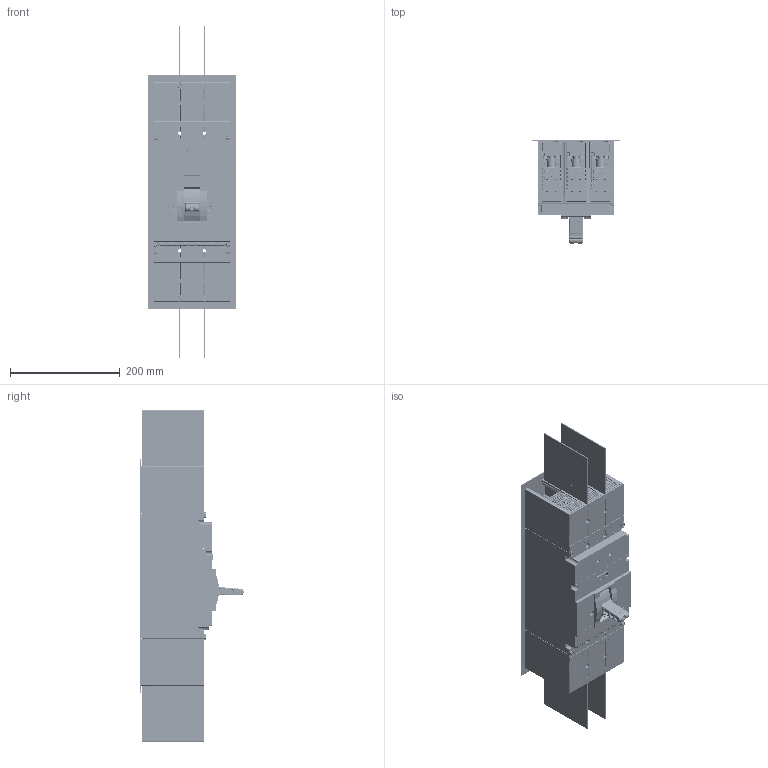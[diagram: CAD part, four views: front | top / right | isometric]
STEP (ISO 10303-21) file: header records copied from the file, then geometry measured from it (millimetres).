
FILE_DESCRIPTION((''),'2;1');
FILE_NAME('NM8N-630HVS_TM_500_3P_ASM','2023-07-04T10:33:25',('wanhf'),(''),'CREO PARAMETRIC BY PTC INC, 2020044','CREO PARAMETRIC BY PTC INC, 2020044','');
FILE_SCHEMA(('CONFIG_CONTROL_DESIGN','SHAPE_APPEARANCE_LAYERS_GROUPS'));
Products named in the file (56): 8ZTD_024_1075_243_1_1; 8300M0101003_123_1_1; 8940M0312001HW_92_1_1; 5ZTD_024_1057_ASM_80_ASM_1_ASM__ASM; 8ZTD_300_731_361_1_1; 5ZTD_550_889_ASM_334_ASM_1_1; 5ZTD_550_890_1-2_ASM_366_ASM_1_; 5ZTD_616_009_ASM_338_ASM_1_1; 5ZTD_553_275_1-2_ASM_383_ASM_1_; 5ZTD_200_190_1-2_ASM_89_ASM_1_A_ASM; 5ZTD_740_371_ASM_333_ASM_1_1; 8ZTD_300_730_405_1_1; 5ZTD_005_558_1-2_ASM_233_ASM_1__ASM; 5ZTD_040_199_ASM_293_ASM_1_1; 5ZTD_040_201_ASM_276_ASM_1_ASM__ASM; 5ZTD_257_079_ASM_229_ASM_1_1; 5ZTD_257_080_ASM_255_ASM_1_ASM__ASM; 5ZTD_040_200_ASM_232_ASM_1_ASM__ASM; 8288M0820012_221_ASM_1_1; 5ZTD_295_673_ASM_233_ASM_1_ASM__ASM; 5232M1526109HW_ASM_100_ASM_1_1; 8ZTD_300_729_422_1_1; 5ZTD_005_557_1-2_ASM_225_ASM_1__ASM; 8ZTD_300_732_289_1_1; 5ZTD_005_559_1-2_ASM_148_ASM_1__ASM; 8ZTD_253_924_176_1_1; 5ZTD_253_496_ASM_155_ASM_1_ASM__ASM; 5ZTD_519_1753_1-2_ASM_184_ASM_1_ASM; 8ZTD_157_119_115_1_1; 5ZTD_024_1058V_205_1_1; 5ZTD_024_1058_ASM_200_ASM_1_ASM_ASM; 8ZTD_420_590_277_1_1; 5ZTD_420_246_1-9_ASM_163_ASM_1__ASM; 8043M0804101_171_1_1; 5612M1526003HW_ASM_137_ASM_1_1; SP040763_30_1_1; 5206M1501116_170_ASM_1_1; 5206M1501116_ASM_170_ASM_1_ASM__ASM; 5ZTD_234_120_ASM_29_ASM_1_1; 8259M0101003_171_1_1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
Assembly tree (114 placements, depth 8):
  NM8N-630HVS_TM_500_3P_ASM
    NM8N-630_400_HV_TM0001_ASM_1_ASM
      2ZTD_256_838_1-13_ASM_ASM_1_A_1_ASM
        2ZTD_256_838_1-13_ASM_121_ASM_1_ASM
          5ZTD_024_1057_ASM_80_ASM_1_ASM__ASM
            8ZTD_024_1075_243_1_1
            8300M0101003_123_1_1  x6
            8940M0312001HW_92_1_1  x6
          5ZTD_519_1753_1-2_ASM_184_ASM_1_ASM
            5ZTD_005_558_1-2_ASM_233_ASM_1__ASM
              8ZTD_300_731_361_1_1
              5ZTD_550_889_ASM_334_ASM_1_1
              5ZTD_550_890_1-2_ASM_366_ASM_1_
              5ZTD_616_009_ASM_338_ASM_1_1  x2
              5ZTD_200_190_1-2_ASM_89_ASM_1_A_ASM
                5ZTD_553_275_1-2_ASM_383_ASM_1_
              5ZTD_740_371_ASM_333_ASM_1_1  x2
              8ZTD_300_730_405_1_1
            5ZTD_295_673_ASM_233_ASM_1_ASM__ASM
              5ZTD_040_201_ASM_276_ASM_1_ASM__ASM
                5ZTD_040_199_ASM_293_ASM_1_1
              5ZTD_257_080_ASM_255_ASM_1_ASM__ASM
                5ZTD_257_079_ASM_229_ASM_1_1
              5ZTD_040_200_ASM_232_ASM_1_ASM__ASM
                5ZTD_040_199_ASM_293_ASM_1_1
              8288M0820012_221_ASM_1_1
            5232M1526109HW_ASM_100_ASM_1_1
            5ZTD_005_557_1-2_ASM_225_ASM_1__ASM
              8ZTD_300_729_422_1_1
              5ZTD_550_889_ASM_334_ASM_1_1
              5ZTD_550_890_1-2_ASM_366_ASM_1_
              5ZTD_616_009_ASM_338_ASM_1_1  x2
              5ZTD_200_190_1-2_ASM_89_ASM_1_A_ASM
                5ZTD_553_275_1-2_ASM_383_ASM_1_
              5ZTD_740_371_ASM_333_ASM_1_1  x2
              8ZTD_300_730_405_1_1
            5ZTD_005_559_1-2_ASM_148_ASM_1__ASM
              8ZTD_300_731_361_1_1
              5ZTD_550_889_ASM_334_ASM_1_1
              5ZTD_550_890_1-2_ASM_366_ASM_1_
              5ZTD_616_009_ASM_338_ASM_1_1  x2
              5ZTD_200_190_1-2_ASM_89_ASM_1_A_ASM
                5ZTD_553_275_1-2_ASM_383_ASM_1_
              5ZTD_740_371_ASM_333_ASM_1_1  x2
              8ZTD_300_732_289_1_1
            5ZTD_253_496_ASM_155_ASM_1_ASM__ASM
              8ZTD_253_924_176_1_1
          8ZTD_157_119_115_1_1  x3
          5ZTD_422_042_1-13_ASM_133_ASM_1_ASM
            5ZTD_024_1058_ASM_200_ASM_1_ASM_ASM
              5ZTD_024_1058V_205_1_1
            5ZTD_420_246_1-9_ASM_163_ASM_1__ASM  x3
              8ZTD_420_590_277_1_1
            8043M0804101_171_1_1  x3
            5612M1526003HW_ASM_137_ASM_1_1  x3
            SP040763_30_1_1  x3
            5206M1501116_ASM_170_ASM_1_ASM__ASM
              5206M1501116_170_ASM_1_1
            5ZTD_234_120_ASM_29_ASM_1_1
            8259M0101003_171_1_1
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Bounding box: 160 x 188.66 x 606 mm (x, y, z)
Volume: 2143297.9 mm3; surface area: 1622730.7 mm2
Topology: 58 solids, 84 shells, 19730 faces, 56659 edges, 36949 vertices
Faces by surface type: plane 12126, cylinder 5349, cone 781, torus 754, sphere 412, bspline 282, extrusion 26
Entity records: 544570 total; most frequent: CARTESIAN_POINT 98901, ORIENTED_EDGE 77306, DIRECTION 74397, EDGE_CURVE 38671, VECTOR 26559, LINE 26534, VERTEX_POINT 25401, AXIS2_PLACEMENT_3D 23919
